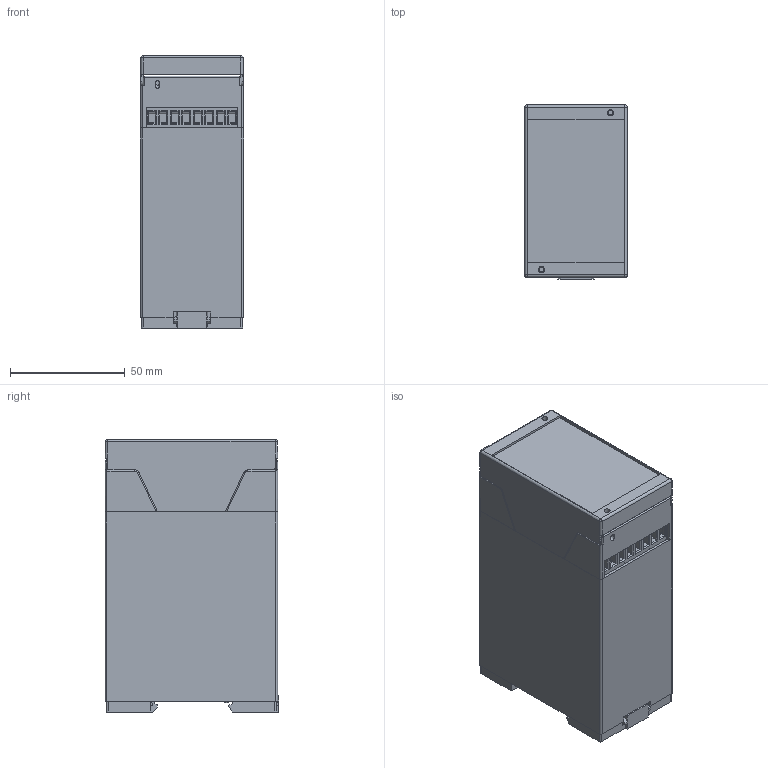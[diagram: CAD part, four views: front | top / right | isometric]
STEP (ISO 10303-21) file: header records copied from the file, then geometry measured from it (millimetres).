
FILE_DESCRIPTION(/* description */ (''),/* implementation_level */ '2;1');
FILE_NAME(/* name */ 'F:\User\Daten\DWG\Anw\KH\Handelsmarketing Wellmann KH\CombiNorm-Classic\65004510.HMT1.stp',/* time_stamp */ '2021-04-29T11:15:53+02:00',/* author */ ('haertel'),/* organization */ (''),/* preprocessor_version */ 'ST-DEVELOPER v17.2',/* originating_system */ 'Autodesk Inventor 2019',/* authorisation */ '');
FILE_SCHEMA (('AUTOMOTIVE_DESIGN { 1 0 10303 214 3 1 1 }'));
Length unit declared in the file: millimetre
Products named in the file (4): 65004510.HMT1; 65004510_CN 45 AK; 65004560_CNH 45 N; 66008100_AK700 8 H
Assembly tree (4 placements, depth 2):
  65004510.HMT1
    65004510_CN 45 AK
    65004560_CNH 45 N
    66008100_AK700 8 H  x2
Bounding box: 45 x 75.55 x 118.7 mm (x, y, z)
Volume: 86529.6 mm3; surface area: 102111.1 mm2
Topology: 6 solids, 6 shells, 1875 faces, 5066 edges, 3315 vertices
Faces by surface type: plane 1392, cylinder 283, cone 130, torus 52, sphere 18
Full cylindrical faces by diameter (mm): 1 x14, 1.2 x14, 3.6 x16, 3.7 x16, 4 x16
Entity records: 45466 total; most frequent: CARTESIAN_POINT 8490, ORIENTED_EDGE 7828, DIRECTION 7424, EDGE_CURVE 3914, LINE 3040, VECTOR 3040, VERTEX_POINT 2568, AXIS2_PLACEMENT_3D 2192
